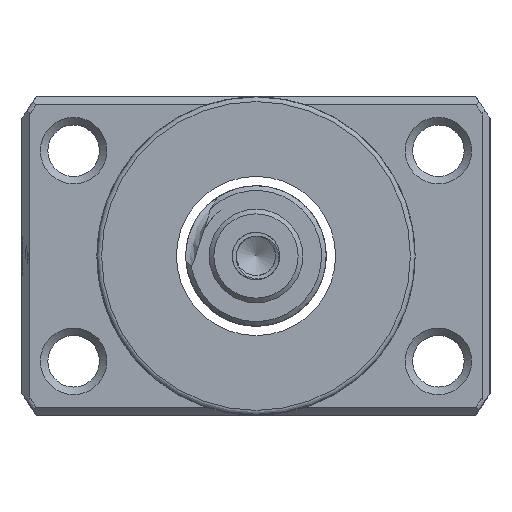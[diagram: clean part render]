
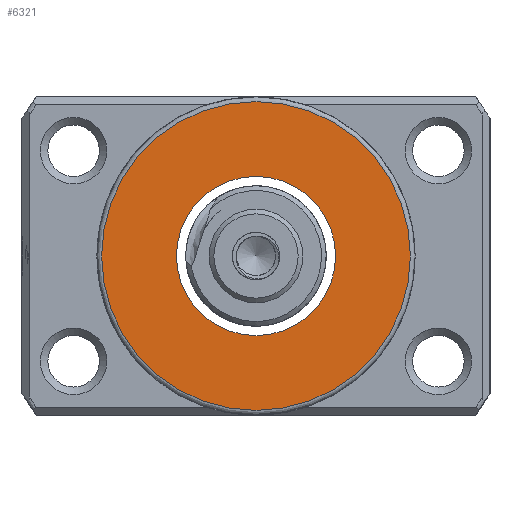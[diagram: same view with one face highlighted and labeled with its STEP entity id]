
A CAD part, left-side view. The second image highlights one B-rep face of the part: STEP entity #6321.
In plain terms, the highlighted planar face has unit normal (-1, 0, 0).
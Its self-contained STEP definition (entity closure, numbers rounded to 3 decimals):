
#335 = CARTESIAN_POINT ( 'NONE',  ( -53.324, 0., 0. ) ) ;
#1329 = DIRECTION ( 'NONE',  ( -1., 0., 0. ) ) ;
#1990 = DIRECTION ( 'NONE',  ( -1., 0., 0. ) ) ;
#3306 = ORIENTED_EDGE ( 'NONE', *, *, #3345, .F. ) ;
#3345 = EDGE_CURVE ( 'NONE', #9641, #9641, #10961, .T. ) ;
#4107 = AXIS2_PLACEMENT_3D ( 'NONE', #4200, #1990, #5454 ) ;
#4200 = CARTESIAN_POINT ( 'NONE',  ( -53.324, 8.5, 0. ) ) ;
#4728 = ORIENTED_EDGE ( 'NONE', *, *, #10407, .T. ) ;
#5071 = EDGE_LOOP ( 'NONE', ( #4728 ) ) ;
#5116 = DIRECTION ( 'NONE',  ( -1., 0., 0. ) ) ;
#5380 = FACE_OUTER_BOUND ( 'NONE', #5071, .T. ) ;
#5454 = DIRECTION ( 'NONE',  ( 0., 0., 1. ) ) ;
#5919 = EDGE_LOOP ( 'NONE', ( #3306 ) ) ;
#6321 = ADVANCED_FACE ( 'NONE', ( #5380, #12726 ), #10160, .T. ) ;
#7284 = CARTESIAN_POINT ( 'NONE',  ( -53.324, 0., 8.5 ) ) ;
#9641 = VERTEX_POINT ( 'NONE', #7284 ) ;
#9643 = CARTESIAN_POINT ( 'NONE',  ( -53.324, 0., 0. ) ) ;
#9872 = CARTESIAN_POINT ( 'NONE',  ( -53.324, 0., 16.5 ) ) ;
#9893 = DIRECTION ( 'NONE',  ( 0., 0., 1. ) ) ;
#9946 = VERTEX_POINT ( 'NONE', #9872 ) ;
#10160 = PLANE ( 'NONE',  #4107 ) ;
#10407 = EDGE_CURVE ( 'NONE', #9946, #9946, #11876, .T. ) ;
#10455 = AXIS2_PLACEMENT_3D ( 'NONE', #335, #5116, #9893 ) ;
#10961 = CIRCLE ( 'NONE', #10455, 8.5 ) ;
#11876 = CIRCLE ( 'NONE', #15119, 16.5 ) ;
#12726 = FACE_BOUND ( 'NONE', #5919, .T. ) ;
#14568 = DIRECTION ( 'NONE',  ( 0., 0., 1. ) ) ;
#15119 = AXIS2_PLACEMENT_3D ( 'NONE', #9643, #1329, #14568 ) ;
